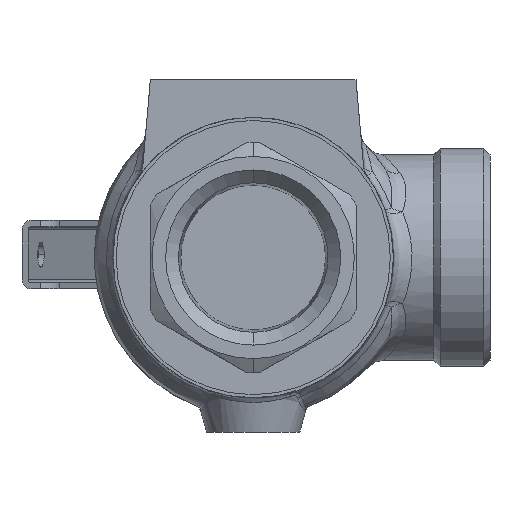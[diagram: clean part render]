
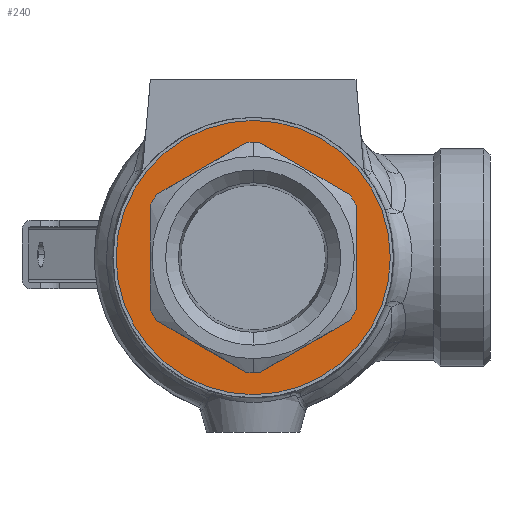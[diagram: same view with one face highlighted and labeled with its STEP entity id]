
A CAD part, front view. The second image highlights one B-rep face of the part: STEP entity #240.
In plain terms, the highlighted planar face has unit normal (0, -1, 0).
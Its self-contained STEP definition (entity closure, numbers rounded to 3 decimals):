
#240=ADVANCED_FACE('',(#1572,#1573),#1571,.T.);
#1571=PLANE('',#3686);
#1572=FACE_OUTER_BOUND('',#3687,.T.);
#1573=FACE_BOUND('',#3688,.T.);
#3683=CARTESIAN_POINT('',(-45.726,-27.,28.6));
#3684=DIRECTION('',(0.,-1.,0.));
#3685=DIRECTION('',(0.,0.,-1.));
#3686=AXIS2_PLACEMENT_3D('',#3683,#3684,#3685);
#3687=EDGE_LOOP('',(#4602,#4603));
#3688=EDGE_LOOP('',(#4604,#4605,#4606,#4607,#4608,#4609,#4610,#4611,#4612,#4613,#4614,#4615));
#4602=ORIENTED_EDGE('',*,*,#5194,.F.);
#4603=ORIENTED_EDGE('',*,*,#5195,.F.);
#4604=ORIENTED_EDGE('',*,*,#5193,.F.);
#4605=ORIENTED_EDGE('',*,*,#5088,.F.);
#4606=ORIENTED_EDGE('',*,*,#5190,.F.);
#4607=ORIENTED_EDGE('',*,*,#4962,.F.);
#4608=ORIENTED_EDGE('',*,*,#5185,.F.);
#4609=ORIENTED_EDGE('',*,*,#4966,.F.);
#4610=ORIENTED_EDGE('',*,*,#5188,.F.);
#4611=ORIENTED_EDGE('',*,*,#4970,.F.);
#4612=ORIENTED_EDGE('',*,*,#4980,.F.);
#4613=ORIENTED_EDGE('',*,*,#4974,.F.);
#4614=ORIENTED_EDGE('',*,*,#4978,.F.);
#4615=ORIENTED_EDGE('',*,*,#5183,.F.);
#4962=EDGE_CURVE('',#6010,#6017,#6018,.T.);
#4966=EDGE_CURVE('',#6038,#6045,#6046,.T.);
#4970=EDGE_CURVE('',#6066,#6073,#6074,.T.);
#4974=EDGE_CURVE('',#6094,#6101,#6102,.T.);
#4978=EDGE_CURVE('',#6121,#6094,#6128,.T.);
#4980=EDGE_CURVE('',#6101,#6066,#6140,.T.);
#5088=EDGE_CURVE('',#6867,#6874,#6875,.T.);
#5183=EDGE_CURVE('',#7487,#6121,#7494,.T.);
#5185=EDGE_CURVE('',#6045,#6010,#7506,.T.);
#5188=EDGE_CURVE('',#6073,#6038,#7525,.T.);
#5190=EDGE_CURVE('',#6017,#6867,#7537,.T.);
#5193=EDGE_CURVE('',#6874,#7487,#7556,.T.);
#5194=EDGE_CURVE('',#7562,#7563,#7564,.T.);
#5195=EDGE_CURVE('',#7563,#7562,#7570,.T.);
#6010=VERTEX_POINT('',#8458);
#6017=VERTEX_POINT('',#8462);
#6018=LINE('',#8463,#8464);
#6038=VERTEX_POINT('',#8483);
#6045=VERTEX_POINT('',#8487);
#6046=LINE('',#8488,#8489);
#6066=VERTEX_POINT('',#8508);
#6073=VERTEX_POINT('',#8512);
#6074=LINE('',#8513,#8514);
#6094=VERTEX_POINT('',#8533);
#6101=VERTEX_POINT('',#8537);
#6102=LINE('',#8538,#8539);
#6121=VERTEX_POINT('',#8549);
#6128=CIRCLE('',#8556,18.5);
#6140=CIRCLE('',#8564,18.5);
#6867=VERTEX_POINT('',#9293);
#6874=VERTEX_POINT('',#9297);
#6875=LINE('',#9298,#9299);
#7487=VERTEX_POINT('',#10040);
#7494=LINE('',#10044,#10045);
#7506=CIRCLE('',#10054,18.5);
#7525=CIRCLE('',#10067,18.5);
#7537=CIRCLE('',#10075,18.5);
#7556=CIRCLE('',#10088,18.5);
#7562=VERTEX_POINT('',#10089);
#7563=VERTEX_POINT('',#10090);
#7564=CIRCLE('',#10094,22.);
#7570=CIRCLE('',#10098,22.);
#8458=CARTESIAN_POINT('',(16.5,-27.,-8.367));
#8462=CARTESIAN_POINT('',(16.5,-27.,8.367));
#8463=CARTESIAN_POINT('',(16.5,-27.,-8.367));
#8464=VECTOR('',#8465,16.733);
#8465=DIRECTION('',(0.,0.,1.));
#8483=CARTESIAN_POINT('',(1.004,-27.,-18.473));
#8487=CARTESIAN_POINT('',(15.496,-27.,-10.106));
#8488=CARTESIAN_POINT('',(1.004,-27.,-18.473));
#8489=VECTOR('',#8490,16.733);
#8490=DIRECTION('',(0.866,0.,0.5));
#8508=CARTESIAN_POINT('',(-15.496,-27.,-10.106));
#8512=CARTESIAN_POINT('',(-1.004,-27.,-18.473));
#8513=CARTESIAN_POINT('',(-15.496,-27.,-10.106));
#8514=VECTOR('',#8515,16.733);
#8515=DIRECTION('',(0.866,0.,-0.5));
#8533=CARTESIAN_POINT('',(-16.5,-27.,8.367));
#8537=CARTESIAN_POINT('',(-16.5,-27.,-8.367));
#8538=CARTESIAN_POINT('',(-16.5,-27.,8.367));
#8539=VECTOR('',#8540,16.733);
#8540=DIRECTION('',(0.,0.,-1.));
#8549=CARTESIAN_POINT('',(-15.496,-27.,10.106));
#8553=CARTESIAN_POINT('',(0.,-27.,0.));
#8554=DIRECTION('',(0.,-1.,0.));
#8555=DIRECTION('',(0.,0.,1.));
#8556=AXIS2_PLACEMENT_3D('',#8553,#8554,#8555);
#8561=CARTESIAN_POINT('',(0.,-27.,0.));
#8562=DIRECTION('',(0.,-1.,0.));
#8563=DIRECTION('',(0.,0.,1.));
#8564=AXIS2_PLACEMENT_3D('',#8561,#8562,#8563);
#9293=CARTESIAN_POINT('',(15.496,-27.,10.106));
#9297=CARTESIAN_POINT('',(1.004,-27.,18.473));
#9298=CARTESIAN_POINT('',(15.496,-27.,10.106));
#9299=VECTOR('',#9300,16.733);
#9300=DIRECTION('',(-0.866,0.,0.5));
#10040=CARTESIAN_POINT('',(-1.004,-27.,18.473));
#10044=CARTESIAN_POINT('',(-1.004,-27.,18.473));
#10045=VECTOR('',#10046,16.733);
#10046=DIRECTION('',(-0.866,0.,-0.5));
#10051=CARTESIAN_POINT('',(0.,-27.,0.));
#10052=DIRECTION('',(0.,-1.,0.));
#10053=DIRECTION('',(0.,0.,1.));
#10054=AXIS2_PLACEMENT_3D('',#10051,#10052,#10053);
#10064=CARTESIAN_POINT('',(0.,-27.,0.));
#10065=DIRECTION('',(0.,-1.,0.));
#10066=DIRECTION('',(0.,0.,1.));
#10067=AXIS2_PLACEMENT_3D('',#10064,#10065,#10066);
#10072=CARTESIAN_POINT('',(0.,-27.,0.));
#10073=DIRECTION('',(0.,-1.,0.));
#10074=DIRECTION('',(0.,0.,1.));
#10075=AXIS2_PLACEMENT_3D('',#10072,#10073,#10074);
#10085=CARTESIAN_POINT('',(0.,-27.,0.));
#10086=DIRECTION('',(0.,-1.,0.));
#10087=DIRECTION('',(0.054,0.,0.999));
#10088=AXIS2_PLACEMENT_3D('',#10085,#10086,#10087);
#10089=CARTESIAN_POINT('',(0.,-27.,-22.));
#10090=CARTESIAN_POINT('',(0.,-27.,22.));
#10091=CARTESIAN_POINT('',(0.,-27.,0.));
#10092=DIRECTION('',(0.,1.,0.));
#10093=DIRECTION('',(0.,0.,1.));
#10094=AXIS2_PLACEMENT_3D('',#10091,#10092,#10093);
#10095=CARTESIAN_POINT('',(0.,-27.,0.));
#10096=DIRECTION('',(0.,1.,0.));
#10097=DIRECTION('',(0.,0.,1.));
#10098=AXIS2_PLACEMENT_3D('',#10095,#10096,#10097);
